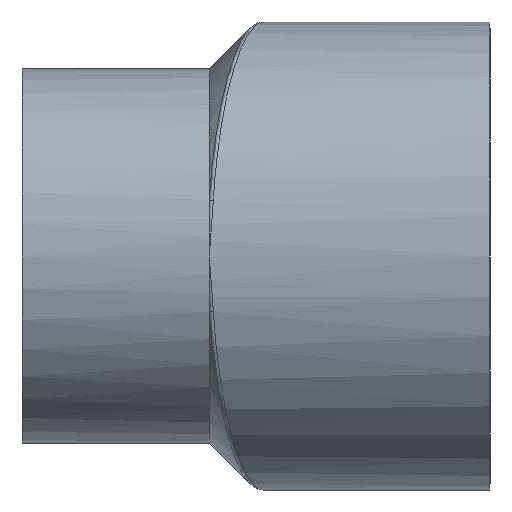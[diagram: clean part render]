
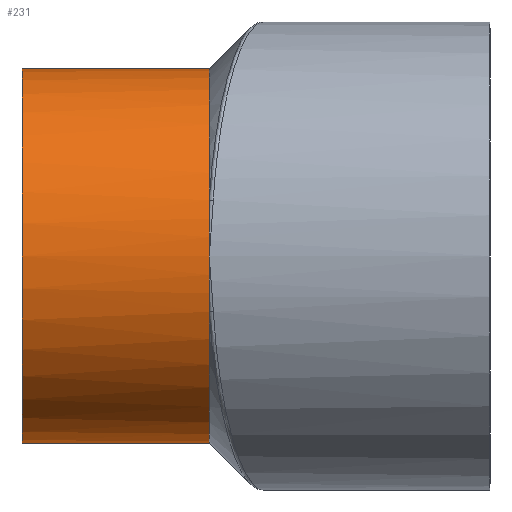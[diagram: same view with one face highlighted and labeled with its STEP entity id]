
A CAD part, front view. The second image highlights one B-rep face of the part: STEP entity #231.
In plain terms, the highlighted cylindrical face has radius 25.4 mm (diameter 50.8 mm), a partial arc.
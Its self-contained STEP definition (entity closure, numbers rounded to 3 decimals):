
#13 = CYLINDRICAL_SURFACE ( 'NONE', #244, 25.4 ) ;
#63 = ORIENTED_EDGE ( 'NONE', *, *, #1360, .T. ) ;
#67 = VERTEX_POINT ( 'NONE', #135 ) ;
#88 = ORIENTED_EDGE ( 'NONE', *, *, #1135, .T. ) ;
#135 = CARTESIAN_POINT ( 'NONE',  ( -38.1, -6.35, 25.4 ) ) ;
#142 = EDGE_LOOP ( 'NONE', ( #424, #63, #88, #503, #926, #1414, #546 ) ) ;
#164 = AXIS2_PLACEMENT_3D ( 'NONE', #1401, #1395, #1390 ) ;
#217 = VERTEX_POINT ( 'NONE', #381 ) ;
#231 = ADVANCED_FACE ( 'NONE', ( #1106 ), #13, .T. ) ;
#244 = AXIS2_PLACEMENT_3D ( 'NONE', #421, #435, #397 ) ;
#302 = CIRCLE ( 'NONE', #164, 25.4 ) ;
#315 = LINE ( 'NONE', #935, #1193 ) ;
#334 = AXIS2_PLACEMENT_3D ( 'NONE', #1023, #1025, #1031 ) ;
#381 = CARTESIAN_POINT ( 'NONE',  ( -63.5, -6.35, 25.4 ) ) ;
#397 = DIRECTION ( 'NONE',  ( 0., 0., -1. ) ) ;
#421 = CARTESIAN_POINT ( 'NONE',  ( -31.597, -6.35, 0. ) ) ;
#424 = ORIENTED_EDGE ( 'NONE', *, *, #1137, .F. ) ;
#435 = DIRECTION ( 'NONE',  ( 1., 0., 0. ) ) ;
#491 = EDGE_CURVE ( 'NONE', #583, #1379, #1176, .T. ) ;
#496 = EDGE_CURVE ( 'NONE', #1379, #620, #889, .T. ) ;
#503 = ORIENTED_EDGE ( 'NONE', *, *, #1045, .F. ) ;
#512 = EDGE_CURVE ( 'NONE', #67, #583, #1434, .T. ) ;
#546 = ORIENTED_EDGE ( 'NONE', *, *, #512, .F. ) ;
#583 = VERTEX_POINT ( 'NONE', #1308 ) ;
#620 = VERTEX_POINT ( 'NONE', #922 ) ;
#777 = AXIS2_PLACEMENT_3D ( 'NONE', #1083, #1087, #1090 ) ;
#795 = VECTOR ( 'NONE', #804, 1000. ) ;
#804 = DIRECTION ( 'NONE',  ( 1., 0., 0. ) ) ;
#889 = CIRCLE ( 'NONE', #334, 25.4 ) ;
#922 = CARTESIAN_POINT ( 'NONE',  ( -38.1, -30.596, -7.569 ) ) ;
#926 = ORIENTED_EDGE ( 'NONE', *, *, #496, .F. ) ;
#935 = CARTESIAN_POINT ( 'NONE',  ( -31.597, -6.35, -25.4 ) ) ;
#942 = CARTESIAN_POINT ( 'NONE',  ( -31.597, -6.35, 25.4 ) ) ;
#983 = AXIS2_PLACEMENT_3D ( 'NONE', #984, #989, #992 ) ;
#984 = CARTESIAN_POINT ( 'NONE',  ( -38.1, -6.35, 0. ) ) ;
#989 = DIRECTION ( 'NONE',  ( 1., 0., 0. ) ) ;
#992 = DIRECTION ( 'NONE',  ( 0., 0., -1. ) ) ;
#1023 = CARTESIAN_POINT ( 'NONE',  ( -38.1, -6.35, 0. ) ) ;
#1025 = DIRECTION ( 'NONE',  ( 1., 0., 0. ) ) ;
#1031 = DIRECTION ( 'NONE',  ( 0., 0., -1. ) ) ;
#1045 = EDGE_CURVE ( 'NONE', #620, #1065, #1158, .T. ) ;
#1065 = VERTEX_POINT ( 'NONE', #1283 ) ;
#1074 = VERTEX_POINT ( 'NONE', #1275 ) ;
#1083 = CARTESIAN_POINT ( 'NONE',  ( -38.1, -6.35, 0. ) ) ;
#1087 = DIRECTION ( 'NONE',  ( 1., 0., 0. ) ) ;
#1090 = DIRECTION ( 'NONE',  ( 0., 0., -1. ) ) ;
#1106 = FACE_OUTER_BOUND ( 'NONE', #142, .T. ) ;
#1135 = EDGE_CURVE ( 'NONE', #1074, #1065, #315, .T. ) ;
#1137 = EDGE_CURVE ( 'NONE', #217, #67, #1421, .T. ) ;
#1158 = CIRCLE ( 'NONE', #1180, 25.4 ) ;
#1165 = DIRECTION ( 'NONE',  ( 1., 0., 0. ) ) ;
#1176 = CIRCLE ( 'NONE', #983, 25.4 ) ;
#1180 = AXIS2_PLACEMENT_3D ( 'NONE', #1378, #1294, #1289 ) ;
#1193 = VECTOR ( 'NONE', #1165, 1000. ) ;
#1275 = CARTESIAN_POINT ( 'NONE',  ( -63.5, -6.35, -25.4 ) ) ;
#1283 = CARTESIAN_POINT ( 'NONE',  ( -38.1, -6.35, -25.4 ) ) ;
#1289 = DIRECTION ( 'NONE',  ( 0., 0., -1. ) ) ;
#1294 = DIRECTION ( 'NONE',  ( 1., 0., 0. ) ) ;
#1308 = CARTESIAN_POINT ( 'NONE',  ( -38.1, -30.596, 7.569 ) ) ;
#1360 = EDGE_CURVE ( 'NONE', #217, #1074, #302, .T. ) ;
#1378 = CARTESIAN_POINT ( 'NONE',  ( -38.1, -6.35, 0. ) ) ;
#1379 = VERTEX_POINT ( 'NONE', #1419 ) ;
#1390 = DIRECTION ( 'NONE',  ( 0., 0., -1. ) ) ;
#1395 = DIRECTION ( 'NONE',  ( 1., 0., 0. ) ) ;
#1401 = CARTESIAN_POINT ( 'NONE',  ( -63.5, -6.35, 0. ) ) ;
#1414 = ORIENTED_EDGE ( 'NONE', *, *, #491, .F. ) ;
#1419 = CARTESIAN_POINT ( 'NONE',  ( -38.1, -31.75, 0. ) ) ;
#1421 = LINE ( 'NONE', #942, #795 ) ;
#1434 = CIRCLE ( 'NONE', #777, 25.4 ) ;
